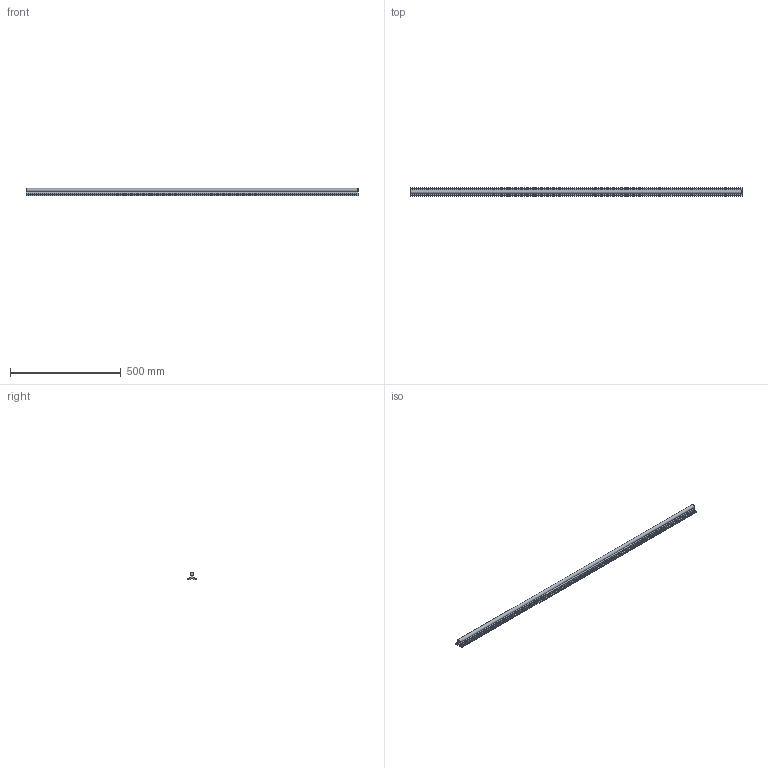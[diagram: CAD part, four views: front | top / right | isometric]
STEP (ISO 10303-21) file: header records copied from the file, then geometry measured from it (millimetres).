
FILE_DESCRIPTION(/* description */ (''),/* implementation_level */ '2;1');
FILE_NAME(/* name */ 'C:\Users\David\Desktop\stepFiles\Profilfuehrung\LFS16x1500.stp',/* time_stamp */ '2018-06-24T15:18:20+02:00',/* author */ ('Buskamp'),/* organization */ (''),/* preprocessor_version */ 'ST-DEVELOPER v17',/* originating_system */ 'Autodesk Inventor 2019',/* authorisation */ '');
FILE_SCHEMA (('AUTOMOTIVE_DESIGN { 1 0 10303 214 3 1 1 }'));
Length unit declared in the file: millimetre
Products named in the file (1): Linearführung D16xvariabel
Bounding box: 1500 x 40 x 32.97 mm (x, y, z)
Volume: 766040.5 mm3; surface area: 235488.3 mm2
Topology: 1 solids, 1 shells, 124 faces, 414 edges, 272 vertices
Faces by surface type: plane 85, cylinder 21, cone 18
Full cylindrical faces by diameter (mm): 5.5 x20
Entity records: 4645 total; most frequent: CARTESIAN_POINT 883, ORIENTED_EDGE 828, DIRECTION 788, EDGE_CURVE 414, AXIS2_PLACEMENT_3D 285, VERTEX_POINT 272, LINE 218, VECTOR 218
